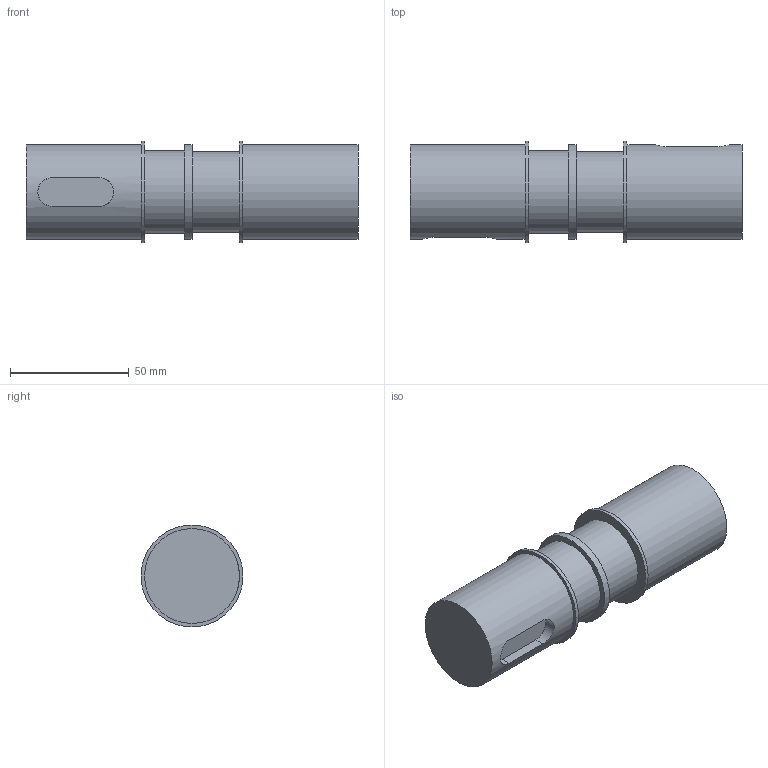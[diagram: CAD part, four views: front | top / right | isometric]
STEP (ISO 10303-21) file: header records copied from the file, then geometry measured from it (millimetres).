
FILE_DESCRIPTION(/* description */ (''),/* implementation_level */ '2;1');
FILE_NAME(/* name */ 'F:\Sensorik\Standard_Messflansche\01_1_10_Nm\High-Speed_Messwelle_1-10Nm\Online-Shop-Version\Freigabe_HSMW_200-500Nm.stp',/* time_stamp */ '2017-10-24T08:40:37+02:00',/* author */ ('lander'),/* organization */ (''),/* preprocessor_version */ 'ST-DEVELOPER v16.5',/* originating_system */ 'Autodesk Inventor 2017',/* authorisation */ '');
FILE_SCHEMA (('AUTOMOTIVE_DESIGN { 1 0 10303 214 3 1 1 }'));
Length unit declared in the file: millimetre
Products named in the file (1): Freigabe_Messwelle
Bounding box: 140 x 43 x 43 mm (x, y, z)
Volume: 161201.7 mm3; surface area: 22217.9 mm2
Topology: 1 solids, 1 shells, 25 faces, 50 edges, 34 vertices
Faces by surface type: plane 14, cylinder 11
Full cylindrical faces by diameter (mm): 34 x1, 35 x1, 40 x3, 43 x2
Entity records: 712 total; most frequent: CARTESIAN_POINT 174, DIRECTION 104, ORIENTED_EDGE 84, AXIS2_PLACEMENT_3D 44, EDGE_CURVE 42, EDGE_LOOP 40, VERTEX_POINT 34, FACE_OUTER_BOUND 25
